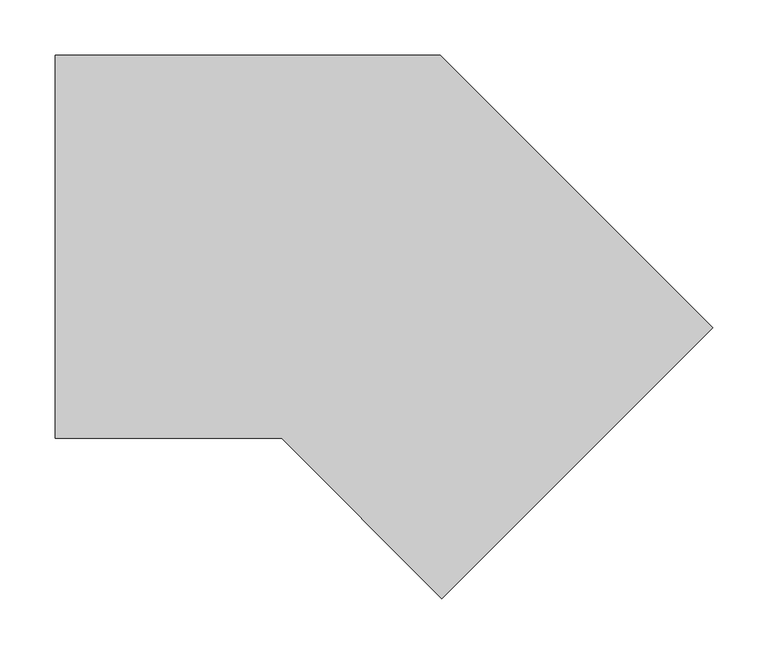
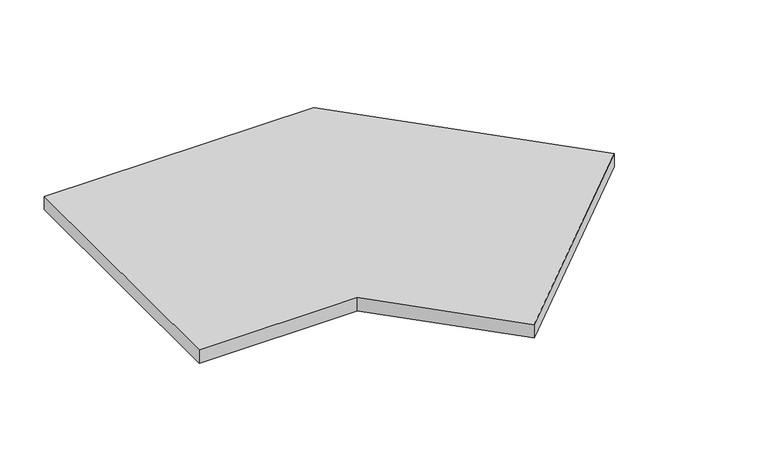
"""IFC4 building model written with IfcOpenShell, lengths in millimetres: proxy geometry, TECHNO_Решетка_KVU : Решетка рулонная алюминиевая/ Белый RAL 9016."""

from ifc_helpers import new_model, si_unit, frame, origin, place, context, project, spatial, polyline, outline, extrude, source, transform, mapped, element, save


def mechanical_equipment_e573c716(model_context):
    return source(origin(), model_context, "Body", "SweptSolid", [
        extrude(outline(polyline([(319.1262187, -73.3359016), (73.3359016, -319.1262187), (-71.9903171, -173.8), (-277.5126266, -173.8), (-277.5126266, 173.8), (71.9903171, 173.8), (319.1262187, -73.3359016)])), frame((0.0, 0.0, -18.1), z_axis=(0.0, 0.0, 1.0), x_axis=(1.0, 0.0, 0.0)), (0.0, 0.0, 1.0), 18.1),
    ])


if __name__ == "__main__":
    model = new_model("IFC4")
    model_context = context("Model", 3, world=origin())
    ifc_project = project(units=[si_unit("LENGTHUNIT", "METRE", prefix="MILLI")], contexts=[model_context])
    site = spatial("IfcSite", under=ifc_project)
    building = spatial("IfcBuilding", under=site)
    placement = place(None, origin())
    mechanical_equipment_shape = mechanical_equipment_e573c716(model_context)
    element("IfcBuildingElementProxy", 1, Name="TECHNO_Решетка_KVU : Решетка рулонная алюминиевая/ Белый RAL 9016", ObjectType="TECHNO_Решетка_KVU : Решетка рулонная алюминиевая/ Белый RAL 9016", at=placement, inside=building, context=model_context, shape_type="MappedRepresentation", body=[
        mapped(mechanical_equipment_shape, transform((0.0, 0.0, 0.0), x_axis=(1.0, 0.0, 0.0), y_axis=(0.0, 1.0, 0.0), z_axis=(0.0, 0.0, 1.0))),
    ])
    save(model, "model.ifc")
